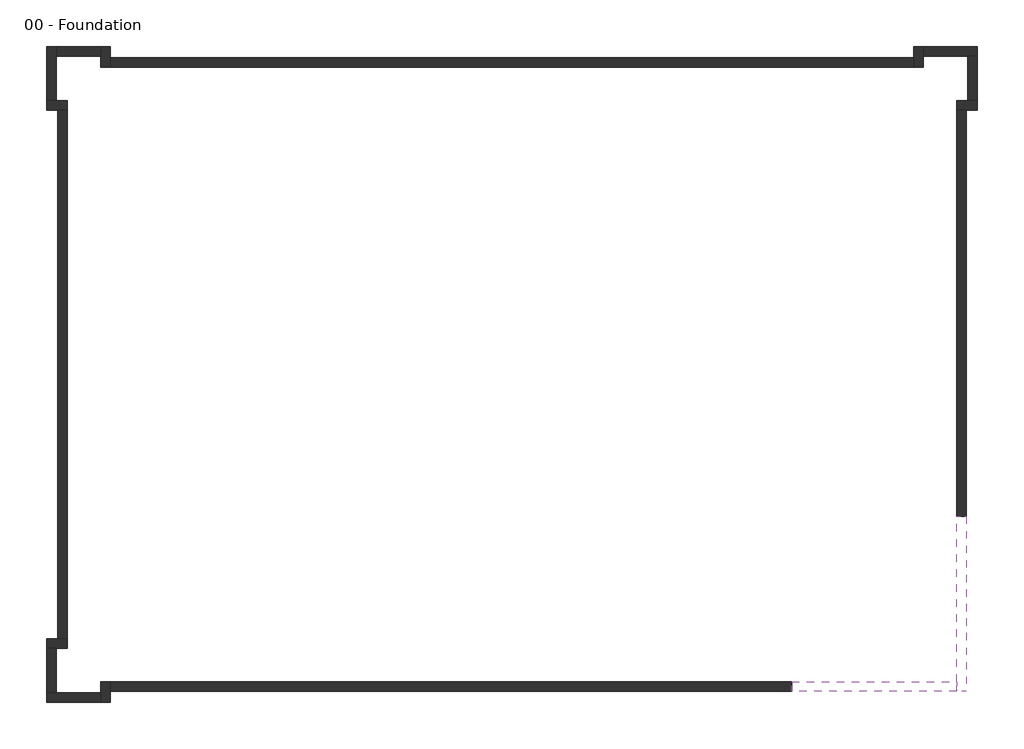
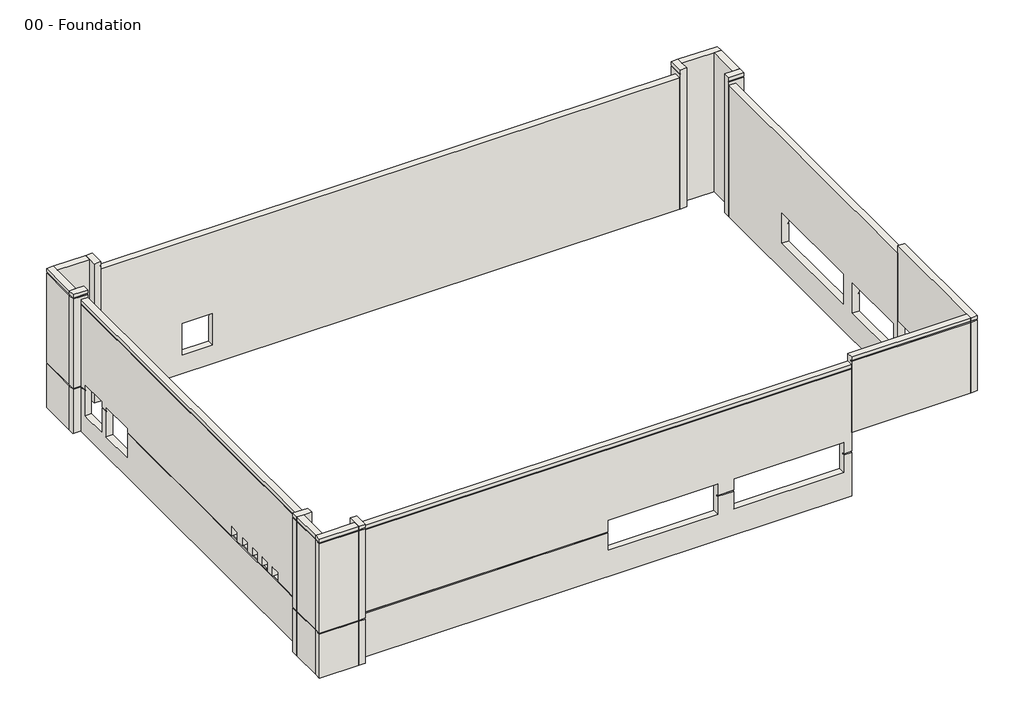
# One storey: 18 walls.
"""IFC4 building model written with IfcOpenShell, lengths in millimetres."""

import ifcopenshell
import ifcopenshell.guid

model = None  # the IFC model being written
_history = None  # IfcOwnerHistory: only IFC2X3 demands one
_inside = {}  # id of a spatial element -> (the spatial element, [elements in it])
_under = {}  # id of a project, library or spatial element -> (it, [spatial elements below it])
_declared = {}  # id of a project -> (the project, [libraries it declares])
_typed = {}  # id of a type object -> (the type object, [elements of that type])
_made_of = {}  # id of a material, layer set ... -> (it, [elements and type objects made of it])


def new_model(schema):
    """Start an empty IFC model of exactly this schema.

    Asked for "IFC4X3", IfcOpenShell would pick the latest addendum, in which some entities
    have other attributes; the version numbers below select the first issue.
    IFC2X3 requires an IfcOwnerHistory on every rooted entity: one is made here for all.
    """
    global model, _history
    if schema == "IFC4X3":
        model = ifcopenshell.file(schema_version=(4, 3, 0, 0))
    else:
        model = ifcopenshell.file(schema=schema)
    _inside.clear()
    _under.clear()
    _declared.clear()
    _typed.clear()
    _made_of.clear()
    _history = None
    if model.schema == "IFC2X3":
        org = make("IfcOrganization", Name="unknown")
        user = make(
            "IfcPersonAndOrganization",
            ThePerson=make("IfcPerson", FamilyName="unknown"),
            TheOrganization=org,
        )
        app = make(
            "IfcApplication",
            ApplicationDeveloper=org,
            Version="unknown",
            ApplicationFullName="unknown",
            ApplicationIdentifier="unknown",
        )
        _history = make(
            "IfcOwnerHistory",
            OwningUser=user,
            OwningApplication=app,
            ChangeAction="ADDED",
            CreationDate=0,
        )
    return model


def make(cls, **values):
    """One entity of the class cls with the attributes given. An attribute that is None is left unset."""
    return model.create_entity(
        cls, **{name: value for name, value in values.items() if value is not None}
    )


def rooted(cls, **values):
    """An entity with a GlobalId (a new one), such as an element, a storey or a relation."""
    return make(cls, GlobalId=ifcopenshell.guid.new(), OwnerHistory=_history, **values)


def si_unit(unit_type, name, prefix=None):
    """IfcSIUnit, for example si_unit("LENGTHUNIT", "METRE", prefix="MILLI")."""
    return make("IfcSIUnit", UnitType=unit_type, Prefix=prefix, Name=name)


def assignment(units):
    """IfcUnitAssignment: the units of a project."""
    return None if units is None else make("IfcUnitAssignment", Units=units)


def point(xyz):
    """IfcCartesianPoint."""
    return None if xyz is None else make("IfcCartesianPoint", Coordinates=xyz)


def direction(xyz):
    """IfcDirection."""
    return None if xyz is None else make("IfcDirection", DirectionRatios=xyz)


def frame(location, z_axis=None, x_axis=None):
    """IfcAxis2Placement3D, a coordinate frame: its origin and axes. An axis left out is left unset."""
    return make(
        "IfcAxis2Placement3D",
        Location=point(location),
        Axis=direction(z_axis),
        RefDirection=direction(x_axis),
    )


def origin():
    """The frame at (0, 0, 0) with its axes left unset."""
    return frame((0.0, 0.0, 0.0))


def place(relative_to, where):
    """IfcLocalPlacement: puts the frame where relative to a parent placement (None: the world)."""
    return make(
        "IfcLocalPlacement", PlacementRelTo=relative_to, RelativePlacement=where
    )


def context(
    kind, dimensions, precision=None, world=None, true_north=None, identifier=None
):
    """IfcGeometricRepresentationContext, for example the 3D "Model" context."""
    return make(
        "IfcGeometricRepresentationContext",
        ContextIdentifier=identifier,
        ContextType=kind,
        CoordinateSpaceDimension=dimensions,
        Precision=precision,
        WorldCoordinateSystem=world,
        TrueNorth=true_north,
    )


def project(units=None, contexts=None):
    """IfcProject with its units and contexts."""
    return rooted(
        "IfcProject",
        Name="project",
        RepresentationContexts=contexts,
        UnitsInContext=assignment(units),
    )


def spatial(cls, under=None, at=None, **own):
    """A site, building, storey or space (cls), placed at a placement, below another one or the project."""
    s = rooted(cls, ObjectPlacement=at, **own)
    if under is not None:
        _under.setdefault(under.id(), (under, []))[1].append(s)
    return s


def polyline(points):
    """IfcPolyline through the points."""
    return make("IfcPolyline", Points=[point(p) for p in points])


def outline(outer, holes=None, kind="AREA"):
    """IfcArbitraryClosedProfileDef: a profile drawn as a closed curve; with holes, ...WithVoids."""
    if holes is None:
        return make("IfcArbitraryClosedProfileDef", ProfileType=kind, OuterCurve=outer)
    return make(
        "IfcArbitraryProfileDefWithVoids",
        ProfileType=kind,
        OuterCurve=outer,
        InnerCurves=holes,
    )


def extrude(swept, where, along, depth):
    """IfcExtrudedAreaSolid: the profile swept, set in the frame where, extruded along a direction by depth."""
    return make(
        "IfcExtrudedAreaSolid",
        SweptArea=swept,
        Position=where,
        ExtrudedDirection=direction(along),
        Depth=depth,
    )


def faces_of(points, faces, orient=None, outer=None):
    """IfcFace entities. A face is a list of loops; a loop is a list of indices into points, from 0.

    orient and outer hold one flag for each loop. By default every Orientation is true, the
    first loop of a face is its IfcFaceOuterBound and the others are IfcFaceBound.
    """
    made = []
    for i, loops in enumerate(faces):
        bounds = []
        for j, loop in enumerate(loops):
            is_outer = j == 0 if outer is None else outer[i][j]
            bounds.append(
                make(
                    "IfcFaceOuterBound" if is_outer else "IfcFaceBound",
                    Bound=make("IfcPolyLoop", Polygon=[points[k] for k in loop]),
                    Orientation=True if orient is None else orient[i][j],
                )
            )
        made.append(make("IfcFace", Bounds=bounds))
    return made


def faceted_brep(points, faces, orient=None, outer=None, voids=None):
    """IfcFacetedBrep: a solid bounded by flat faces; with voids (closed shells), ...WithVoids."""
    shared = [point(p) for p in points]
    hull = make("IfcClosedShell", CfsFaces=faces_of(shared, faces, orient, outer))
    if voids is None:
        return make("IfcFacetedBrep", Outer=hull)
    return make(
        "IfcFacetedBrepWithVoids",
        Outer=hull,
        Voids=[
            make(cls, CfsFaces=faces_of(shared, fs, o, b)) for cls, fs, o, b in voids
        ],
    )


def shape(context_of_items, identifier, shape_type, items):
    """IfcShapeRepresentation: the items that make up one representation, for example the "Body"."""
    return make(
        "IfcShapeRepresentation",
        ContextOfItems=context_of_items,
        RepresentationIdentifier=identifier,
        RepresentationType=shape_type,
        Items=items,
    )


def made_of(thing, what):
    """Note that an element or type object is made of a material, layer set ...; save() writes the relation."""
    if what is not None:
        _made_of.setdefault(what.id(), (what, []))[1].append(thing)
    return thing


def element(
    cls,
    number,
    at=None,
    inside=None,
    cuts=None,
    type_object=None,
    material=None,
    context=None,
    identifier="Body",
    shape_type=None,
    held_by="IfcProductDefinitionShape",
    body=None,
    shapes=None,
    **own,
):
    """One element of the class cls, such as IfcWall. Its Tag is "e" and its number.

    at: its placement. inside: the storey or other place that contains it. cuts: it is an
    opening in that element (IfcRelVoidsElement). A single representation is given by context,
    identifier, shape_type and body (its items); several are given by shapes. held_by: the class
    of the entity that holds the representations. save() writes the other relations.
    """
    e = rooted(cls, Tag="e%d" % number, ObjectPlacement=at, **own)
    if body is not None:
        shapes = [shape(context, identifier, shape_type, body)]
    if shapes is not None:
        e.Representation = make(held_by, Representations=shapes)
    if inside is not None:
        _inside.setdefault(inside.id(), (inside, []))[1].append(e)
    if cuts is not None:
        rooted(
            "IfcRelVoidsElement", RelatingBuildingElement=cuts, RelatedOpeningElement=e
        )
    if type_object is not None:
        _typed.setdefault(type_object.id(), (type_object, []))[1].append(e)
    return made_of(e, material)


def aggregate(whole, parts):
    """IfcRelAggregates: a whole, such as a stair, and the parts it consists of."""
    return rooted("IfcRelAggregates", RelatingObject=whole, RelatedObjects=parts)


def save(model, path):
    """Write the relations noted so far, then the file.

    IfcRelAggregates (storeys below a building ...), IfcRelContainedInSpatialStructure (elements
    in a storey), IfcRelDefinesByType, IfcRelAssociatesMaterial and IfcRelDeclares: one each for
    every whole, place, type object, material and project.
    """
    for whole, parts in _under.values():
        aggregate(whole, parts)
    for where, things in _inside.values():
        rooted(
            "IfcRelContainedInSpatialStructure",
            RelatedElements=things,
            RelatingStructure=where,
        )
    for kind, things in _typed.values():
        rooted("IfcRelDefinesByType", RelatedObjects=things, RelatingType=kind)
    for what, things in _made_of.values():
        rooted("IfcRelAssociatesMaterial", RelatedObjects=things, RelatingMaterial=what)
    for by, libraries in _declared.values():
        rooted("IfcRelDeclares", RelatingContext=by, RelatedDefinitions=libraries)
    model.write(path)


model = new_model("IFC4")

# Units and contexts
model_context = context("Model", 3, world=origin())
ifc_project = project(units=[si_unit("LENGTHUNIT", "METRE", prefix="MILLI")], contexts=[model_context])

# Site, building, storey
site = spatial("IfcSite", under=ifc_project)
building = spatial("IfcBuilding", under=site)
storey = spatial("IfcBuildingStorey", under=building, Name="00 - Foundation", Elevation=-1250.0)

# Walls
placement = place(None, origin())
element("IfcWall", 1, ObjectType="Exterior - Render on Brick on Block @ Entry", at=placement, inside=storey, context=model_context, shape_type="Brep", body=[
    faceted_brep([(18351.5272279, -6481.9313057, 3000.0), (18351.5272279, -13977.9313057, 3000.0), (18351.5272279, -14406.9313057, 3000.0), (18351.5272279, -14406.9313057, 7700.0), (18351.5272279, -14331.9313057, 7700.0), (18351.5272279, -14331.9313057, 7775.0), (18351.5272279, -14406.9313057, 7775.0), (18351.5272279, -14406.9313057, 8000.0), (18351.5272279, -13977.9313057, 8000.0), (18351.5272279, -6481.9313057, 8000.0), (18351.5272279, -6481.9313057, 7500.0), (18780.5272279, -14406.9313057, 3000.0), (18780.5272279, -6481.9313057, 3000.0), (18780.5272279, -6481.9313057, 7200.0), (18780.5272279, -6481.9313057, 7275.0), (18780.5272279, -6481.9313057, 7500.0), (18780.5272279, -6481.9313057, 7700.0), (18780.5272279, -14406.9313057, 7700.0), (18780.5272279, -6481.9313057, 8000.0), (18780.5272279, -14406.9313057, 8000.0), (18780.5272279, -14406.9313057, 7775.0), (18780.5272279, -6481.9313057, 7775.0), (18705.5272279, -6481.9313057, 7775.0), (18705.5272279, -6481.9313057, 7700.0), (18705.5272279, -14331.9313057, 7775.0), (18705.5272279, -14331.9313057, 7700.0)], [[[0, 1, 2, 3, 4, 5, 6, 7, 8, 9, 10]], [[11, 12, 13, 14, 15, 16, 17]], [[18, 19, 20, 21]], [[2, 1, 0, 12, 11]], [[9, 8, 7, 19, 18]], [[0, 10, 9, 18, 21, 22, 23, 16, 15, 14, 13, 12]], [[24, 22, 21, 20, 6, 5]], [[23, 25, 4, 3, 17, 16]], [[22, 24, 25, 23]], [[2, 11, 17, 3]], [[19, 7, 6, 20]], [[25, 24, 5, 4]]]),
])
element("IfcWall", 2, ObjectType="Exterior - Render on Brick on Block @ Entry", at=placement, inside=storey, context=model_context, shape_type="Brep", body=[
    faceted_brep([(18351.5272279, -13977.9313057, 3000.0), (10855.5272279, -13977.9313057, 3000.0), (10855.5272279, -13977.9313057, 7500.0), (10855.5272279, -13977.9313057, 8000.0), (18351.5272279, -13977.9313057, 8000.0), (10855.5272279, -14406.9313057, 3000.0), (18351.5272279, -14406.9313057, 3000.0), (18351.5272279, -14406.9313057, 7700.0), (10855.5272279, -14406.9313057, 7700.0), (10855.5272279, -14406.9313057, 7500.0), (10855.5272279, -14406.9313057, 7275.0), (10855.5272279, -14406.9313057, 7200.0), (18351.5272279, -14406.9313057, 8000.0), (10855.5272279, -14406.9313057, 8000.0), (10855.5272279, -14406.9313057, 7775.0), (18351.5272279, -14406.9313057, 7775.0), (10855.5272279, -14331.9313057, 7700.0), (10855.5272279, -14331.9313057, 7775.0), (18351.5272279, -14331.9313057, 7700.0), (18351.5272279, -14331.9313057, 7775.0)], [[[0, 1, 2, 3, 4]], [[5, 6, 7, 8, 9, 10, 11]], [[12, 13, 14, 15]], [[1, 0, 6, 5]], [[3, 2, 1, 5, 11, 10, 9, 8, 16, 17, 14, 13]], [[4, 3, 13, 12]], [[16, 18, 19, 17]], [[0, 4, 12, 15, 19, 18, 7, 6]], [[17, 19, 15, 14]], [[18, 16, 8, 7]]]),
])
element("IfcWall", 3, ObjectType="Exterior - Render on Brick on Block", at=placement, inside=storey, context=model_context, shape_type="Brep", body=[
    faceted_brep([(10855.5272279, -13977.9313057, -1250.0), (-20031.4727721, -13977.9313057, -1250.0), (-20031.4727721, -13977.9313057, 7500.0), (10855.5272279, -13977.9313057, 7500.0), (10855.5272279, -13977.9313057, 3000.0), (3430.5272279, -13977.9313057, 2500.0), (3430.5272279, -13977.9313057, 500.0), (10355.5272279, -13977.9313057, 500.0), (10355.5272279, -13977.9313057, 2500.0), (2430.5272279, -13977.9313057, 500.0), (2430.5272279, -13977.9313057, 2500.0), (-4494.4727721, -13977.9313057, 2500.0), (-4494.4727721, -13977.9313057, 500.0), (10855.5272279, -14406.9313057, 7500.0), (-20031.4727721, -14406.9313057, 7500.0), (-20031.4727721, -14406.9313057, 7275.0), (10855.5272279, -14406.9313057, 7275.0), (-20031.4727721, -14406.9313057, -1250.0), (10855.5272279, -14406.9313057, -1250.0), (10855.5272279, -14406.9313057, 1675.0), (10355.5272279, -14406.9313057, 1675.0), (10355.5272279, -14406.9313057, 500.0), (3430.5272279, -14406.9313057, 500.0), (3430.5272279, -14406.9313057, 1675.0), (2430.5272279, -14406.9313057, 1675.0), (2430.5272279, -14406.9313057, 500.0), (-4494.4727721, -14406.9313057, 500.0), (-4494.4727721, -14406.9313057, 1675.0), (-20031.4727721, -14406.9313057, 1675.0), (-20031.4727721, -14406.9313057, 1750.0), (-4494.4727721, -14406.9313057, 1750.0), (-4494.4727721, -14406.9313057, 2500.0), (2430.5272279, -14406.9313057, 2500.0), (2430.5272279, -14406.9313057, 1750.0), (3430.5272279, -14406.9313057, 1750.0), (3430.5272279, -14406.9313057, 2500.0), (10355.5272279, -14406.9313057, 2500.0), (10355.5272279, -14406.9313057, 1750.0), (10855.5272279, -14406.9313057, 1750.0), (10855.5272279, -14406.9313057, 7200.0), (-20031.4727721, -14406.9313057, 7200.0), (10855.5272279, -14331.9313057, 7275.0), (10855.5272279, -14331.9313057, 7200.0), (10855.5272279, -14331.9313057, 1750.0), (10855.5272279, -14331.9313057, 1675.0), (10855.5272279, -14381.9313057, -1250.0), (-20031.4727721, -14381.9313057, -1250.0), (-20031.4727721, -14331.9313057, 1750.0), (-4494.4727721, -14331.9313057, 1750.0), (-4494.4727721, -14331.9313057, 1675.0), (-20031.4727721, -14331.9313057, 1675.0), (-20031.4727721, -14331.9313057, 7275.0), (-20031.4727721, -14331.9313057, 7200.0), (3430.5272279, -14331.9313057, 1750.0), (3430.5272279, -14331.9313057, 1675.0), (10355.5272279, -14331.9313057, 1675.0), (10355.5272279, -14331.9313057, 1750.0), (2430.5272279, -14331.9313057, 1750.0), (2430.5272279, -14331.9313057, 1675.0)], [[[0, 1, 2, 3, 4], [5, 6, 7, 8], [9, 10, 11, 12]], [[13, 14, 15, 16]], [[17, 18, 19, 20, 21, 22, 23, 24, 25, 26, 27, 28]], [[29, 30, 31, 32, 33, 34, 35, 36, 37, 38, 39, 40]], [[3, 2, 14, 13]], [[0, 4, 3, 13, 16, 41, 42, 39, 38, 43, 44, 19, 18, 45]], [[1, 0, 45, 46]], [[45, 18, 17, 46]], [[30, 29, 47, 48]], [[28, 27, 49, 50]], [[48, 47, 50, 49]], [[51, 41, 16, 15]], [[42, 52, 40, 39]], [[41, 51, 52, 42]], [[2, 1, 46, 17, 28, 50, 47, 29, 40, 52, 51, 15, 14]], [[22, 6, 5, 35, 34, 53, 54, 23]], [[35, 5, 8, 36]], [[36, 8, 7, 21, 20, 55, 56, 37]], [[6, 22, 21, 7]], [[57, 53, 34, 33]], [[54, 58, 24, 23]], [[53, 57, 58, 54]], [[9, 25, 24, 58, 57, 33, 32, 10]], [[10, 32, 31, 11]], [[11, 31, 30, 48, 49, 27, 26, 12]], [[25, 9, 12, 26]], [[56, 43, 38, 37]], [[44, 55, 20, 19]], [[43, 56, 55, 44]]]),
])
element("IfcWall", 4, ObjectType="Exterior - Render on Brick on Block", at=placement, inside=storey, context=model_context, shape_type="Brep", body=[
    faceted_brep([(-20460.4727721, -13977.9313057, -1250.0), (-20460.4727721, -14477.7313057, -1250.0), (-20460.4727721, -14906.7313057, -1250.0), (-20460.4727721, -14906.7313057, 1675.0), (-20460.4727721, -14831.7313057, 1675.0), (-20460.4727721, -14831.7313057, 1750.0), (-20460.4727721, -14906.7313057, 1750.0), (-20460.4727721, -14906.7313057, 7700.0), (-20460.4727721, -14831.7313057, 7700.0), (-20460.4727721, -14831.7313057, 7775.0), (-20460.4727721, -14906.7313057, 7775.0), (-20460.4727721, -14906.7313057, 8000.0), (-20460.4727721, -14477.7313057, 8000.0), (-20460.4727721, -13977.9313057, 8000.0), (-20031.4727721, -13977.9313057, 8000.0), (-20031.4727721, -14906.7313057, 8000.0), (-20031.4727721, -14906.7313057, 7775.0), (-20031.4727721, -13977.9313057, 7775.0), (-20031.4727721, -14906.7313057, -1250.0), (-20031.4727721, -14406.9313057, -1250.0), (-20031.4727721, -13977.9313057, -1250.0), (-20031.4727721, -13977.9313057, 7500.0), (-20031.4727721, -13977.9313057, 7700.0), (-20031.4727721, -14906.7313057, 7700.0), (-20031.4727721, -14906.7313057, 1750.0), (-20031.4727721, -14406.9313057, 1750.0), (-20031.4727721, -14331.9313057, 1750.0), (-20031.4727721, -14331.9313057, 1675.0), (-20031.4727721, -14406.9313057, 1675.0), (-20031.4727721, -14906.7313057, 1675.0), (-20056.4727721, -13977.9313057, -1250.0), (-20056.4727721, -14906.7313057, -1250.0), (-20106.4727721, -14331.9313057, 1675.0), (-20106.4727721, -14331.9313057, 1750.0), (-20106.4727721, -14831.7313057, 1750.0), (-20106.4727721, -14831.7313057, 1675.0), (-20106.4727721, -14831.7313057, 7775.0), (-20106.4727721, -13977.9313057, 7775.0), (-20106.4727721, -13977.9313057, 7700.0), (-20106.4727721, -14831.7313057, 7700.0)], [[[0, 1, 2, 3, 4, 5, 6, 7, 8, 9, 10, 11, 12, 13]], [[14, 15, 16, 17]], [[18, 19, 20, 21, 22, 23, 24, 25, 26, 27, 28, 29]], [[13, 12, 11, 15, 14]], [[2, 1, 0, 30, 31]], [[32, 33, 34, 35]], [[36, 37, 17, 16, 10, 9]], [[38, 39, 8, 7, 23, 22]], [[37, 36, 39, 38]], [[0, 13, 14, 17, 37, 38, 22, 21, 20, 30]], [[20, 19, 18, 31, 30]], [[34, 33, 26, 25, 24, 6, 5]], [[32, 35, 4, 3, 29, 28, 27]], [[33, 32, 27, 26]], [[15, 11, 10, 16]], [[2, 31, 18, 29, 3]], [[6, 24, 23, 7]], [[35, 34, 5, 4]], [[39, 36, 9, 8]]]),
])
element("IfcWall", 5, ObjectType="Exterior - Render on Brick on Block", at=placement, inside=storey, context=model_context, shape_type="Brep", body=[
    faceted_brep([(-20460.4727721, -14477.7313057, -1250.0), (-22490.4727721, -14477.7313057, -1250.0), (-22919.4727721, -14477.7313057, -1250.0), (-22919.4727721, -14477.7313057, 1675.0), (-22844.4727721, -14477.7313057, 1675.0), (-22844.4727721, -14477.7313057, 1750.0), (-22919.4727721, -14477.7313057, 1750.0), (-22919.4727721, -14477.7313057, 7700.0), (-22844.4727721, -14477.7313057, 7700.0), (-22844.4727721, -14477.7313057, 7775.0), (-22919.4727721, -14477.7313057, 7775.0), (-22919.4727721, -14477.7313057, 8000.0), (-22490.4727721, -14477.7313057, 8000.0), (-20460.4727721, -14477.7313057, 8000.0), (-20460.4727721, -14906.7313057, 8000.0), (-22919.4727721, -14906.7313057, 8000.0), (-22919.4727721, -14906.7313057, 7775.0), (-20460.4727721, -14906.7313057, 7775.0), (-22919.4727721, -14906.7313057, -1250.0), (-20460.4727721, -14906.7313057, -1250.0), (-20460.4727721, -14906.7313057, 1675.0), (-22919.4727721, -14906.7313057, 1675.0), (-22919.4727721, -14906.7313057, 1750.0), (-20460.4727721, -14906.7313057, 1750.0), (-20460.4727721, -14906.7313057, 7700.0), (-22919.4727721, -14906.7313057, 7700.0), (-20460.4727721, -14881.7313057, -1250.0), (-22919.4727721, -14881.7313057, -1250.0), (-22844.4727721, -14831.7313057, 1675.0), (-20460.4727721, -14831.7313057, 1675.0), (-20460.4727721, -14831.7313057, 1750.0), (-22844.4727721, -14831.7313057, 1750.0), (-22844.4727721, -14831.7313057, 7775.0), (-22844.4727721, -14831.7313057, 7700.0), (-20460.4727721, -14831.7313057, 7700.0), (-20460.4727721, -14831.7313057, 7775.0)], [[[0, 1, 2, 3, 4, 5, 6, 7, 8, 9, 10, 11, 12, 13]], [[14, 15, 16, 17]], [[18, 19, 20, 21]], [[22, 23, 24, 25]], [[13, 12, 11, 15, 14]], [[2, 1, 0, 26, 27]], [[28, 29, 30, 31]], [[32, 33, 34, 35]], [[0, 13, 14, 17, 35, 34, 24, 23, 30, 29, 20, 19, 26]], [[19, 18, 27, 26]], [[31, 30, 23, 22, 6, 5]], [[29, 28, 4, 3, 21, 20]], [[9, 32, 35, 17, 16, 10]], [[34, 33, 8, 7, 25, 24]], [[15, 11, 10, 16]], [[2, 27, 18, 21, 3]], [[6, 22, 25, 7]], [[28, 31, 5, 4]], [[33, 32, 9, 8]]]),
])
element("IfcWall", 6, ObjectType="Exterior - Render on Brick on Block", at=placement, inside=storey, context=model_context, shape_type="SweptSolid", body=[
    extrude(outline(polyline([(-1250.0, -22490.4727721), (8000.0, -22490.4727721), (8000.0, -22919.4727721), (7775.0, -22919.4727721), (7775.0, -22844.4727721), (7700.0, -22844.4727721), (7700.0, -22919.4727721), (1750.0, -22919.4727721), (1750.0, -22844.4727721), (1675.0, -22844.4727721), (1675.0, -22919.4727721), (-1250.0, -22919.4727721), (-1250.0, -22894.4727721), (-1250.0, -22490.4727721)])), frame((0.0, -14477.7313057, 0.0), z_axis=(0.0, 1.0, 0.0), x_axis=(0.0, 0.0, 1.0)), (0.0, 0.0, 1.0), 2030.0),
])
element("IfcWall", 7, ObjectType="Exterior - Render on Brick on Block", at=placement, inside=storey, context=model_context, shape_type="Brep", body=[
    faceted_brep([(-22919.4727721, -12447.7313057, -1250.0), (-22490.4727721, -12447.7313057, -1250.0), (-21990.4727721, -12447.7313057, -1250.0), (-21990.4727721, -12447.7313057, 8000.0), (-22490.4727721, -12447.7313057, 8000.0), (-22919.4727721, -12447.7313057, 8000.0), (-22919.4727721, -12447.7313057, 7775.0), (-22844.4727721, -12447.7313057, 7775.0), (-22844.4727721, -12447.7313057, 7700.0), (-22919.4727721, -12447.7313057, 7700.0), (-22919.4727721, -12447.7313057, 1750.0), (-22844.4727721, -12447.7313057, 1750.0), (-22844.4727721, -12447.7313057, 1675.0), (-22919.4727721, -12447.7313057, 1675.0), (-22919.4727721, -12018.7313057, 8000.0), (-21990.4727721, -12018.7313057, 8000.0), (-21990.4727721, -12018.7313057, 7775.0), (-22919.4727721, -12018.7313057, 7775.0), (-21990.4727721, -12018.7313057, -1250.0), (-22419.4727721, -12018.7313057, -1250.0), (-22919.4727721, -12018.7313057, -1250.0), (-22919.4727721, -12018.7313057, 1675.0), (-22419.4727721, -12018.7313057, 1675.0), (-22344.4727721, -12018.7313057, 1675.0), (-22344.4727721, -12018.7313057, 1750.0), (-22419.4727721, -12018.7313057, 1750.0), (-22919.4727721, -12018.7313057, 1750.0), (-22919.4727721, -12018.7313057, 7700.0), (-21990.4727721, -12018.7313057, 7700.0), (-21990.4727721, -12018.7313057, 7500.0), (-22919.4727721, -12043.7313057, -1250.0), (-21990.4727721, -12043.7313057, -1250.0), (-22844.4727721, -12093.7313057, 1675.0), (-22844.4727721, -12093.7313057, 1750.0), (-22344.4727721, -12093.7313057, 1750.0), (-22344.4727721, -12093.7313057, 1675.0), (-22844.4727721, -12093.7313057, 7775.0), (-21990.4727721, -12093.7313057, 7775.0), (-21990.4727721, -12093.7313057, 7700.0), (-22844.4727721, -12093.7313057, 7700.0)], [[[0, 1, 2, 3, 4, 5, 6, 7, 8, 9, 10, 11, 12, 13]], [[14, 15, 16, 17]], [[18, 19, 20, 21, 22, 23, 24, 25, 26, 27, 28, 29]], [[5, 4, 3, 15, 14]], [[2, 1, 0, 30, 31]], [[32, 33, 34, 35]], [[36, 37, 38, 39]], [[5, 14, 17, 6]], [[30, 0, 13, 21, 20]], [[26, 10, 9, 27]], [[20, 19, 18, 31, 30]], [[34, 33, 11, 10, 26, 25, 24]], [[32, 35, 23, 22, 21, 13, 12]], [[33, 32, 12, 11]], [[37, 36, 7, 6, 17, 16]], [[39, 38, 28, 27, 9, 8]], [[36, 39, 8, 7]], [[3, 2, 31, 18, 29, 28, 38, 37, 16, 15]], [[35, 34, 24, 23]]]),
])
element("IfcWall", 8, ObjectType="Exterior - Render on Brick on Block", at=placement, inside=storey, context=model_context, shape_type="Brep", body=[
    faceted_brep([(-21990.4727721, -12018.7313057, -1250.0), (-21990.4727721, 11955.0686943, -1250.0), (-21990.4727721, 11955.0686943, 7500.0), (-21990.4727721, -12018.7313057, 7500.0), (-21990.4727721, 9255.0686943, 2000.0), (-21990.4727721, 9255.0686943, 0.0), (-21990.4727721, 6855.0686943, 0.0), (-21990.4727721, 6855.0686943, 2000.0), (-21990.4727721, 9655.0686943, 2100.0), (-21990.4727721, 11555.0686943, 2100.0), (-21990.4727721, 11555.0686943, 0.0), (-21990.4727721, 9655.0686943, 0.0), (-21990.4727721, -9526.1813057, 1750.0), (-21990.4727721, -9526.1813057, 2360.0), (-21990.4727721, -8916.1813057, 2360.0), (-21990.4727721, -8916.1813057, 1750.0), (-21990.4727721, -8421.1813057, 1750.0), (-21990.4727721, -8421.1813057, 2360.0), (-21990.4727721, -7811.1813057, 2360.0), (-21990.4727721, -7811.1813057, 1750.0), (-21990.4727721, -7316.1813057, 1750.0), (-21990.4727721, -7316.1813057, 2360.0), (-21990.4727721, -6706.1813057, 2360.0), (-21990.4727721, -6706.1813057, 1750.0), (-21990.4727721, -6211.1813057, 1750.0), (-21990.4727721, -6211.1813057, 2360.0), (-21990.4727721, -5601.1813057, 2360.0), (-21990.4727721, -5601.1813057, 1750.0), (-21990.4727721, -5106.1813057, 1750.0), (-21990.4727721, -5106.1813057, 2360.0), (-21990.4727721, -4496.1813057, 2360.0), (-21990.4727721, -4496.1813057, 1750.0), (-22419.4727721, -12018.7313057, 7500.0), (-22419.4727721, 11955.0686943, 7500.0), (-22419.4727721, 11955.0686943, 7275.0), (-22419.4727721, -12018.7313057, 7275.0), (-22419.4727721, 11955.0686943, -1250.0), (-22419.4727721, -12018.7313057, -1250.0), (-22419.4727721, -12018.7313057, 1675.0), (-22419.4727721, 6855.0686943, 1675.0), (-22419.4727721, 6855.0686943, 0.0), (-22419.4727721, 9255.0686943, 0.0), (-22419.4727721, 9255.0686943, 1675.0), (-22419.4727721, 9655.0686943, 1675.0), (-22419.4727721, 9655.0686943, 0.0), (-22419.4727721, 11555.0686943, 0.0), (-22419.4727721, 11555.0686943, 1675.0), (-22419.4727721, 11955.0686943, 1675.0), (-22419.4727721, 11955.0686943, 1750.0), (-22419.4727721, 11555.0686943, 1750.0), (-22419.4727721, 11555.0686943, 2100.0), (-22419.4727721, 9655.0686943, 2100.0), (-22419.4727721, 9655.0686943, 1750.0), (-22419.4727721, 9255.0686943, 1750.0), (-22419.4727721, 9255.0686943, 2000.0), (-22419.4727721, 6855.0686943, 2000.0), (-22419.4727721, 6855.0686943, 1750.0), (-22419.4727721, -4496.1813057, 1750.0), (-22419.4727721, -4496.1813057, 2360.0), (-22419.4727721, -5106.1813057, 2360.0), (-22419.4727721, -5106.1813057, 1750.0), (-22419.4727721, -5601.1813057, 1750.0), (-22419.4727721, -5601.1813057, 2360.0), (-22419.4727721, -6211.1813057, 2360.0), (-22419.4727721, -6211.1813057, 1750.0), (-22419.4727721, -6706.1813057, 1750.0), (-22419.4727721, -6706.1813057, 2360.0), (-22419.4727721, -7316.1813057, 2360.0), (-22419.4727721, -7316.1813057, 1750.0), (-22419.4727721, -7811.1813057, 1750.0), (-22419.4727721, -7811.1813057, 2360.0), (-22419.4727721, -8421.1813057, 2360.0), (-22419.4727721, -8421.1813057, 1750.0), (-22419.4727721, -8916.1813057, 1750.0), (-22419.4727721, -8916.1813057, 2360.0), (-22419.4727721, -9526.1813057, 2360.0), (-22419.4727721, -9526.1813057, 1750.0), (-22419.4727721, -12018.7313057, 1750.0), (-22419.4727721, -12018.7313057, 7200.0), (-22419.4727721, 11955.0686943, 7200.0), (-22394.4727721, -12018.7313057, -1250.0), (-22394.4727721, 11955.0686943, -1250.0), (-22344.4727721, 11955.0686943, 1750.0), (-22344.4727721, 11555.0686943, 1750.0), (-22344.4727721, 11555.0686943, 1675.0), (-22344.4727721, 11955.0686943, 1675.0), (-22344.4727721, 11955.0686943, 7275.0), (-22344.4727721, -12018.7313057, 7275.0), (-22344.4727721, -12018.7313057, 7200.0), (-22344.4727721, 11955.0686943, 7200.0), (-22344.4727721, -12018.7313057, 1750.0), (-22344.4727721, -12018.7313057, 1675.0), (-22344.4727721, -9526.1813057, 1750.0), (-22344.4727721, 6855.0686943, 1750.0), (-22344.4727721, -4496.1813057, 1750.0), (-22344.4727721, -8916.1813057, 1750.0), (-22344.4727721, -8421.1813057, 1750.0), (-22344.4727721, -7811.1813057, 1750.0), (-22344.4727721, -7316.1813057, 1750.0), (-22344.4727721, -6706.1813057, 1750.0), (-22344.4727721, -6211.1813057, 1750.0), (-22344.4727721, -5601.1813057, 1750.0), (-22344.4727721, -5106.1813057, 1750.0), (-22344.4727721, 6855.0686943, 1675.0), (-22344.4727721, 9255.0686943, 1750.0), (-22344.4727721, 9255.0686943, 1675.0), (-22344.4727721, 9655.0686943, 1750.0), (-22344.4727721, 9655.0686943, 1675.0)], [[[0, 1, 2, 3], [4, 5, 6, 7], [8, 9, 10, 11], [12, 13, 14, 15], [16, 17, 18, 19], [20, 21, 22, 23], [24, 25, 26, 27], [28, 29, 30, 31]], [[32, 33, 34, 35]], [[36, 37, 38, 39, 40, 41, 42, 43, 44, 45, 46, 47]], [[48, 49, 50, 51, 52, 53, 54, 55, 56, 57, 58, 59, 60, 61, 62, 63, 64, 65, 66, 67, 68, 69, 70, 71, 72, 73, 74, 75, 76, 77, 78, 79]], [[3, 2, 33, 32]], [[1, 0, 80, 81]], [[49, 48, 82, 83]], [[47, 46, 84, 85]], [[85, 84, 83, 82]], [[86, 87, 35, 34]], [[88, 89, 79, 78]], [[87, 86, 89, 88]], [[0, 3, 32, 35, 87, 88, 78, 77, 90, 91, 38, 37, 80]], [[37, 36, 81, 80]], [[77, 76, 92, 90]], [[56, 93, 94, 57]], [[95, 73, 72, 96]], [[97, 69, 68, 98]], [[99, 65, 64, 100]], [[101, 61, 60, 102]], [[39, 38, 91, 103]], [[2, 1, 81, 36, 47, 85, 82, 48, 79, 89, 86, 34, 33]], [[5, 4, 54, 53, 104, 105, 42, 41]], [[55, 54, 4, 7]], [[7, 6, 40, 39, 103, 93, 56, 55]], [[41, 40, 6, 5]], [[104, 106, 107, 105]], [[106, 104, 53, 52]], [[105, 107, 43, 42]], [[8, 51, 50, 9]], [[51, 8, 11, 44, 43, 107, 106, 52]], [[44, 11, 10, 45]], [[9, 50, 49, 83, 84, 46, 45, 10]], [[103, 91, 90, 92, 95, 96, 97, 98, 99, 100, 101, 102, 94, 93]], [[13, 12, 92, 76, 75]], [[14, 13, 75, 74]], [[15, 14, 74, 73, 95]], [[12, 15, 95, 92]], [[17, 16, 96, 72, 71]], [[18, 17, 71, 70]], [[19, 18, 70, 69, 97]], [[16, 19, 97, 96]], [[21, 20, 98, 68, 67]], [[22, 21, 67, 66]], [[23, 22, 66, 65, 99]], [[20, 23, 99, 98]], [[25, 24, 100, 64, 63]], [[26, 25, 63, 62]], [[27, 26, 62, 61, 101]], [[24, 27, 101, 100]], [[29, 28, 102, 60, 59]], [[30, 29, 59, 58]], [[31, 30, 58, 57, 94]], [[28, 31, 94, 102]]]),
])
element("IfcWall", 9, ObjectType="Exterior - Render on Brick on Block", at=placement, inside=storey, context=model_context, shape_type="Brep", body=[
    faceted_brep([(-21990.4727721, 12384.0686943, -1250.0), (-22490.4727721, 12384.0686943, -1250.0), (-22919.4727721, 12384.0686943, -1250.0), (-22919.4727721, 12384.0686943, 1675.0), (-22844.4727721, 12384.0686943, 1675.0), (-22844.4727721, 12384.0686943, 1750.0), (-22919.4727721, 12384.0686943, 1750.0), (-22919.4727721, 12384.0686943, 7700.0), (-22844.4727721, 12384.0686943, 7700.0), (-22844.4727721, 12384.0686943, 7775.0), (-22919.4727721, 12384.0686943, 7775.0), (-22919.4727721, 12384.0686943, 8000.0), (-22490.4727721, 12384.0686943, 8000.0), (-21990.4727721, 12384.0686943, 8000.0), (-21990.4727721, 11955.0686943, 8000.0), (-22919.4727721, 11955.0686943, 8000.0), (-22919.4727721, 11955.0686943, 7775.0), (-21990.4727721, 11955.0686943, 7775.0), (-22919.4727721, 11955.0686943, -1250.0), (-22419.4727721, 11955.0686943, -1250.0), (-21990.4727721, 11955.0686943, -1250.0), (-21990.4727721, 11955.0686943, 7500.0), (-21990.4727721, 11955.0686943, 7700.0), (-22919.4727721, 11955.0686943, 7700.0), (-22919.4727721, 11955.0686943, 1750.0), (-22419.4727721, 11955.0686943, 1750.0), (-22344.4727721, 11955.0686943, 1750.0), (-22344.4727721, 11955.0686943, 1675.0), (-22419.4727721, 11955.0686943, 1675.0), (-22919.4727721, 11955.0686943, 1675.0), (-21990.4727721, 11980.0686943, -1250.0), (-22919.4727721, 11980.0686943, -1250.0), (-22344.4727721, 12030.0686943, 1675.0), (-22344.4727721, 12030.0686943, 1750.0), (-22844.4727721, 12030.0686943, 1750.0), (-22844.4727721, 12030.0686943, 1675.0), (-22844.4727721, 12030.0686943, 7775.0), (-21990.4727721, 12030.0686943, 7775.0), (-21990.4727721, 12030.0686943, 7700.0), (-22844.4727721, 12030.0686943, 7700.0)], [[[0, 1, 2, 3, 4, 5, 6, 7, 8, 9, 10, 11, 12, 13]], [[14, 15, 16, 17]], [[18, 19, 20, 21, 22, 23, 24, 25, 26, 27, 28, 29]], [[13, 12, 11, 15, 14]], [[2, 1, 0, 30, 31]], [[32, 33, 34, 35]], [[36, 37, 17, 16, 10, 9]], [[38, 39, 8, 7, 23, 22]], [[37, 36, 39, 38]], [[0, 13, 14, 17, 37, 38, 22, 21, 20, 30]], [[20, 19, 18, 31, 30]], [[34, 33, 26, 25, 24, 6, 5]], [[32, 35, 4, 3, 29, 28, 27]], [[33, 32, 27, 26]], [[15, 11, 10, 16]], [[2, 31, 18, 29, 3]], [[6, 24, 23, 7]], [[35, 34, 5, 4]], [[39, 36, 9, 8]]]),
])
element("IfcWall", 10, ObjectType="Exterior - Render on Brick on Block", at=placement, inside=storey, context=model_context, shape_type="Brep", body=[
    faceted_brep([(-22490.4727721, 12384.0686943, -1250.0), (-22490.4727721, 14414.0686943, -1250.0), (-22490.4727721, 14843.0686943, -1250.0), (-22490.4727721, 14843.0686943, 1675.0), (-22490.4727721, 14768.0686943, 1675.0), (-22490.4727721, 14768.0686943, 1750.0), (-22490.4727721, 14843.0686943, 1750.0), (-22490.4727721, 14843.0686943, 7700.0), (-22490.4727721, 14768.0686943, 7700.0), (-22490.4727721, 14768.0686943, 7775.0), (-22490.4727721, 14843.0686943, 7775.0), (-22490.4727721, 14843.0686943, 8000.0), (-22490.4727721, 14414.0686943, 8000.0), (-22490.4727721, 12384.0686943, 8000.0), (-22919.4727721, 12384.0686943, 8000.0), (-22919.4727721, 14843.0686943, 8000.0), (-22919.4727721, 14843.0686943, 7775.0), (-22919.4727721, 12384.0686943, 7775.0), (-22919.4727721, 14843.0686943, -1250.0), (-22919.4727721, 12384.0686943, -1250.0), (-22919.4727721, 12384.0686943, 1675.0), (-22919.4727721, 14843.0686943, 1675.0), (-22919.4727721, 14843.0686943, 1750.0), (-22919.4727721, 12384.0686943, 1750.0), (-22919.4727721, 12384.0686943, 7700.0), (-22919.4727721, 14843.0686943, 7700.0), (-22894.4727721, 12384.0686943, -1250.0), (-22894.4727721, 14843.0686943, -1250.0), (-22844.4727721, 14768.0686943, 1675.0), (-22844.4727721, 12384.0686943, 1675.0), (-22844.4727721, 12384.0686943, 1750.0), (-22844.4727721, 14768.0686943, 1750.0), (-22844.4727721, 14768.0686943, 7775.0), (-22844.4727721, 14768.0686943, 7700.0), (-22844.4727721, 12384.0686943, 7700.0), (-22844.4727721, 12384.0686943, 7775.0)], [[[0, 1, 2, 3, 4, 5, 6, 7, 8, 9, 10, 11, 12, 13]], [[14, 15, 16, 17]], [[18, 19, 20, 21]], [[22, 23, 24, 25]], [[13, 12, 11, 15, 14]], [[2, 1, 0, 26, 27]], [[28, 29, 30, 31]], [[32, 33, 34, 35]], [[0, 13, 14, 17, 35, 34, 24, 23, 30, 29, 20, 19, 26]], [[19, 18, 27, 26]], [[31, 30, 23, 22, 6, 5]], [[29, 28, 4, 3, 21, 20]], [[9, 32, 35, 17, 16, 10]], [[34, 33, 8, 7, 25, 24]], [[15, 11, 10, 16]], [[2, 27, 18, 21, 3]], [[6, 22, 25, 7]], [[28, 31, 5, 4]], [[33, 32, 9, 8]]]),
])
element("IfcWall", 11, ObjectType="Exterior - Render on Brick on Block", at=placement, inside=storey, context=model_context, shape_type="SweptSolid", body=[
    extrude(outline(polyline([(14414.0686943, -1250.0), (14414.0686943, 8000.0), (14843.0686943, 8000.0), (14843.0686943, 7775.0), (14768.0686943, 7775.0), (14768.0686943, 7700.0), (14843.0686943, 7700.0), (14843.0686943, 1750.0), (14768.0686943, 1750.0), (14768.0686943, 1675.0), (14843.0686943, 1675.0), (14843.0686943, -1250.0), (14818.0686943, -1250.0), (14414.0686943, -1250.0)])), frame((-22490.4727721, 0.0, 0.0), z_axis=(1.0, 0.0, 0.0), x_axis=(0.0, 1.0, 0.0)), (0.0, 0.0, 1.0), 2030.0),
])
element("IfcWall", 12, ObjectType="Exterior - Render on Brick on Block", at=placement, inside=storey, context=model_context, shape_type="Brep", body=[
    faceted_brep([(-20460.4727721, 14843.0686943, -1250.0), (-20460.4727721, 14414.0686943, -1250.0), (-20460.4727721, 13914.0686943, -1250.0), (-20460.4727721, 13914.0686943, 8000.0), (-20460.4727721, 14414.0686943, 8000.0), (-20460.4727721, 14843.0686943, 8000.0), (-20460.4727721, 14843.0686943, 7775.0), (-20460.4727721, 14768.0686943, 7775.0), (-20460.4727721, 14768.0686943, 7700.0), (-20460.4727721, 14843.0686943, 7700.0), (-20460.4727721, 14843.0686943, 1750.0), (-20460.4727721, 14768.0686943, 1750.0), (-20460.4727721, 14768.0686943, 1675.0), (-20460.4727721, 14843.0686943, 1675.0), (-20031.4727721, 14843.0686943, 8000.0), (-20031.4727721, 13914.0686943, 8000.0), (-20031.4727721, 13914.0686943, 7775.0), (-20031.4727721, 14843.0686943, 7775.0), (-20031.4727721, 13914.0686943, -1250.0), (-20031.4727721, 14343.0686943, -1250.0), (-20031.4727721, 14843.0686943, -1250.0), (-20031.4727721, 14843.0686943, 1675.0), (-20031.4727721, 14343.0686943, 1675.0), (-20031.4727721, 14268.0686943, 1675.0), (-20031.4727721, 14268.0686943, 1750.0), (-20031.4727721, 14343.0686943, 1750.0), (-20031.4727721, 14843.0686943, 1750.0), (-20031.4727721, 14843.0686943, 7700.0), (-20031.4727721, 13914.0686943, 7700.0), (-20031.4727721, 13914.0686943, 7500.0), (-20056.4727721, 14843.0686943, -1250.0), (-20056.4727721, 13914.0686943, -1250.0), (-20106.4727721, 14768.0686943, 1675.0), (-20106.4727721, 14768.0686943, 1750.0), (-20106.4727721, 14268.0686943, 1750.0), (-20106.4727721, 14268.0686943, 1675.0), (-20106.4727721, 14768.0686943, 7775.0), (-20106.4727721, 13914.0686943, 7775.0), (-20106.4727721, 13914.0686943, 7700.0), (-20106.4727721, 14768.0686943, 7700.0)], [[[0, 1, 2, 3, 4, 5, 6, 7, 8, 9, 10, 11, 12, 13]], [[14, 15, 16, 17]], [[18, 19, 20, 21, 22, 23, 24, 25, 26, 27, 28, 29]], [[5, 4, 3, 15, 14]], [[2, 1, 0, 30, 31]], [[32, 33, 34, 35]], [[36, 37, 38, 39]], [[5, 14, 17, 6]], [[30, 0, 13, 21, 20]], [[26, 10, 9, 27]], [[20, 19, 18, 31, 30]], [[34, 33, 11, 10, 26, 25, 24]], [[32, 35, 23, 22, 21, 13, 12]], [[33, 32, 12, 11]], [[37, 36, 7, 6, 17, 16]], [[39, 38, 28, 27, 9, 8]], [[36, 39, 8, 7]], [[3, 2, 31, 18, 29, 28, 38, 37, 16, 15]], [[35, 34, 24, 23]]]),
])
element("IfcWall", 13, ObjectType="Exterior - Render on Brick on Block", at=placement, inside=storey, context=model_context, shape_type="Brep", body=[
    faceted_brep([(-20031.4727721, 13914.0686943, -1250.0), (16392.5272279, 13914.0686943, -1250.0), (16392.5272279, 13914.0686943, 7500.0), (-20031.4727721, 13914.0686943, 7500.0), (-14912.4227721, 13914.0686943, 0.0), (-14912.4227721, 13914.0686943, 2100.0), (-13012.4227721, 13914.0686943, 2100.0), (-13012.4227721, 13914.0686943, 0.0), (-20031.4727721, 14343.0686943, 7500.0), (16392.5272279, 14343.0686943, 7500.0), (16392.5272279, 14343.0686943, 7275.0), (-20031.4727721, 14343.0686943, 7275.0), (16392.5272279, 14343.0686943, -1250.0), (-20031.4727721, 14343.0686943, -1250.0), (-20031.4727721, 14343.0686943, 1675.0), (-14912.4227721, 14343.0686943, 1675.0), (-14912.4227721, 14343.0686943, 0.0), (-13012.4227721, 14343.0686943, 0.0), (-13012.4227721, 14343.0686943, 1675.0), (16392.5272279, 14343.0686943, 1675.0), (16392.5272279, 14343.0686943, 1750.0), (-13012.4227721, 14343.0686943, 1750.0), (-13012.4227721, 14343.0686943, 2100.0), (-14912.4227721, 14343.0686943, 2100.0), (-14912.4227721, 14343.0686943, 1750.0), (-20031.4727721, 14343.0686943, 1750.0), (-20031.4727721, 14343.0686943, 7200.0), (16392.5272279, 14343.0686943, 7200.0), (-20031.4727721, 14318.0686943, -1250.0), (16392.5272279, 14318.0686943, -1250.0), (16392.5272279, 14268.0686943, 1750.0), (-13012.4227721, 14268.0686943, 1750.0), (-13012.4227721, 14268.0686943, 1675.0), (16392.5272279, 14268.0686943, 1675.0), (16392.5272279, 14268.0686943, 7275.0), (-20031.4727721, 14268.0686943, 7275.0), (-20031.4727721, 14268.0686943, 7200.0), (16392.5272279, 14268.0686943, 7200.0), (-20031.4727721, 14268.0686943, 1750.0), (-20031.4727721, 14268.0686943, 1675.0), (-14912.4227721, 14268.0686943, 1750.0), (-14912.4227721, 14268.0686943, 1675.0)], [[[0, 1, 2, 3], [4, 5, 6, 7]], [[8, 9, 10, 11]], [[12, 13, 14, 15, 16, 17, 18, 19]], [[20, 21, 22, 23, 24, 25, 26, 27]], [[3, 2, 9, 8]], [[1, 0, 28, 29]], [[21, 20, 30, 31]], [[19, 18, 32, 33]], [[33, 32, 31, 30]], [[34, 35, 11, 10]], [[36, 37, 27, 26]], [[35, 34, 37, 36]], [[0, 3, 8, 11, 35, 36, 26, 25, 38, 39, 14, 13, 28]], [[13, 12, 29, 28]], [[25, 24, 40, 38]], [[15, 14, 39, 41]], [[2, 1, 29, 12, 19, 33, 30, 20, 27, 37, 34, 10, 9]], [[5, 4, 16, 15, 41, 40, 24, 23]], [[6, 5, 23, 22]], [[7, 6, 22, 21, 31, 32, 18, 17]], [[4, 7, 17, 16]], [[38, 40, 41, 39]]]),
])
element("IfcWall", 14, ObjectType="Exterior - Render on Brick on Block", at=placement, inside=storey, context=model_context, shape_type="Brep", body=[
    faceted_brep([(16821.5272279, 13914.0686943, -1250.0), (16821.5272279, 14414.0686943, -1250.0), (16821.5272279, 14843.0686943, -1250.0), (16821.5272279, 14843.0686943, 1675.0), (16821.5272279, 14768.0686943, 1675.0), (16821.5272279, 14768.0686943, 1750.0), (16821.5272279, 14843.0686943, 1750.0), (16821.5272279, 14843.0686943, 7700.0), (16821.5272279, 14768.0686943, 7700.0), (16821.5272279, 14768.0686943, 7775.0), (16821.5272279, 14843.0686943, 7775.0), (16821.5272279, 14843.0686943, 8000.0), (16821.5272279, 14414.0686943, 8000.0), (16821.5272279, 13914.0686943, 8000.0), (16392.5272279, 13914.0686943, 8000.0), (16392.5272279, 14843.0686943, 8000.0), (16392.5272279, 14843.0686943, 7775.0), (16392.5272279, 13914.0686943, 7775.0), (16392.5272279, 14843.0686943, -1250.0), (16392.5272279, 14343.0686943, -1250.0), (16392.5272279, 13914.0686943, -1250.0), (16392.5272279, 13914.0686943, 7500.0), (16392.5272279, 13914.0686943, 7700.0), (16392.5272279, 14843.0686943, 7700.0), (16392.5272279, 14843.0686943, 1750.0), (16392.5272279, 14343.0686943, 1750.0), (16392.5272279, 14268.0686943, 1750.0), (16392.5272279, 14268.0686943, 1675.0), (16392.5272279, 14343.0686943, 1675.0), (16392.5272279, 14843.0686943, 1675.0), (16417.5272279, 13914.0686943, -1250.0), (16417.5272279, 14843.0686943, -1250.0), (16467.5272279, 14268.0686943, 1675.0), (16467.5272279, 14268.0686943, 1750.0), (16467.5272279, 14768.0686943, 1750.0), (16467.5272279, 14768.0686943, 1675.0), (16467.5272279, 14768.0686943, 7775.0), (16467.5272279, 13914.0686943, 7775.0), (16467.5272279, 13914.0686943, 7700.0), (16467.5272279, 14768.0686943, 7700.0)], [[[0, 1, 2, 3, 4, 5, 6, 7, 8, 9, 10, 11, 12, 13]], [[14, 15, 16, 17]], [[18, 19, 20, 21, 22, 23, 24, 25, 26, 27, 28, 29]], [[13, 12, 11, 15, 14]], [[2, 1, 0, 30, 31]], [[32, 33, 34, 35]], [[36, 37, 17, 16, 10, 9]], [[38, 39, 8, 7, 23, 22]], [[37, 36, 39, 38]], [[0, 13, 14, 17, 37, 38, 22, 21, 20, 30]], [[20, 19, 18, 31, 30]], [[34, 33, 26, 25, 24, 6, 5]], [[32, 35, 4, 3, 29, 28, 27]], [[33, 32, 27, 26]], [[15, 11, 10, 16]], [[2, 31, 18, 29, 3]], [[6, 24, 23, 7]], [[35, 34, 5, 4]], [[39, 36, 9, 8]]]),
])
element("IfcWall", 15, ObjectType="Exterior - Render on Brick on Block", at=placement, inside=storey, context=model_context, shape_type="Brep", body=[
    faceted_brep([(16821.5272279, 14414.0686943, -1250.0), (18851.5272279, 14414.0686943, -1250.0), (19280.5272279, 14414.0686943, -1250.0), (19280.5272279, 14414.0686943, 1675.0), (19205.5272279, 14414.0686943, 1675.0), (19205.5272279, 14414.0686943, 1750.0), (19280.5272279, 14414.0686943, 1750.0), (19280.5272279, 14414.0686943, 7700.0), (19205.5272279, 14414.0686943, 7700.0), (19205.5272279, 14414.0686943, 7775.0), (19280.5272279, 14414.0686943, 7775.0), (19280.5272279, 14414.0686943, 8000.0), (18851.5272279, 14414.0686943, 8000.0), (16821.5272279, 14414.0686943, 8000.0), (16821.5272279, 14843.0686943, 8000.0), (19280.5272279, 14843.0686943, 8000.0), (19280.5272279, 14843.0686943, 7775.0), (16821.5272279, 14843.0686943, 7775.0), (19280.5272279, 14843.0686943, -1250.0), (16821.5272279, 14843.0686943, -1250.0), (16821.5272279, 14843.0686943, 1675.0), (19280.5272279, 14843.0686943, 1675.0), (19280.5272279, 14843.0686943, 1750.0), (16821.5272279, 14843.0686943, 1750.0), (16821.5272279, 14843.0686943, 7700.0), (19280.5272279, 14843.0686943, 7700.0), (16821.5272279, 14818.0686943, -1250.0), (19280.5272279, 14818.0686943, -1250.0), (19205.5272279, 14768.0686943, 1675.0), (16821.5272279, 14768.0686943, 1675.0), (16821.5272279, 14768.0686943, 1750.0), (19205.5272279, 14768.0686943, 1750.0), (19205.5272279, 14768.0686943, 7775.0), (19205.5272279, 14768.0686943, 7700.0), (16821.5272279, 14768.0686943, 7700.0), (16821.5272279, 14768.0686943, 7775.0)], [[[0, 1, 2, 3, 4, 5, 6, 7, 8, 9, 10, 11, 12, 13]], [[14, 15, 16, 17]], [[18, 19, 20, 21]], [[22, 23, 24, 25]], [[13, 12, 11, 15, 14]], [[2, 1, 0, 26, 27]], [[28, 29, 30, 31]], [[32, 33, 34, 35]], [[0, 13, 14, 17, 35, 34, 24, 23, 30, 29, 20, 19, 26]], [[19, 18, 27, 26]], [[31, 30, 23, 22, 6, 5]], [[29, 28, 4, 3, 21, 20]], [[9, 32, 35, 17, 16, 10]], [[34, 33, 8, 7, 25, 24]], [[15, 11, 10, 16]], [[2, 27, 18, 21, 3]], [[6, 22, 25, 7]], [[28, 31, 5, 4]], [[33, 32, 9, 8]]]),
])
element("IfcWall", 16, ObjectType="Exterior - Render on Brick on Block", at=placement, inside=storey, context=model_context, shape_type="SweptSolid", body=[
    extrude(outline(polyline([(8000.0, 18851.5272279), (-1250.0, 18851.5272279), (-1250.0, 19255.5272279), (-1250.0, 19280.5272279), (1675.0, 19280.5272279), (1675.0, 19205.5272279), (1750.0, 19205.5272279), (1750.0, 19280.5272279), (7700.0, 19280.5272279), (7700.0, 19205.5272279), (7775.0, 19205.5272279), (7775.0, 19280.5272279), (8000.0, 19280.5272279), (8000.0, 18851.5272279)])), frame((0.0, 12384.0686943, 0.0), z_axis=(0.0, 1.0, 0.0), x_axis=(0.0, 0.0, 1.0)), (0.0, 0.0, 1.0), 2030.0),
])
element("IfcWall", 17, ObjectType="Exterior - Render on Brick on Block", at=placement, inside=storey, context=model_context, shape_type="Brep", body=[
    faceted_brep([(19280.5272279, 12384.0686943, -1250.0), (18851.5272279, 12384.0686943, -1250.0), (18351.5272279, 12384.0686943, -1250.0), (18351.5272279, 12384.0686943, 8000.0), (18851.5272279, 12384.0686943, 8000.0), (19280.5272279, 12384.0686943, 8000.0), (19280.5272279, 12384.0686943, 7775.0), (19205.5272279, 12384.0686943, 7775.0), (19205.5272279, 12384.0686943, 7700.0), (19280.5272279, 12384.0686943, 7700.0), (19280.5272279, 12384.0686943, 1750.0), (19205.5272279, 12384.0686943, 1750.0), (19205.5272279, 12384.0686943, 1675.0), (19280.5272279, 12384.0686943, 1675.0), (19280.5272279, 11955.0686943, 8000.0), (18351.5272279, 11955.0686943, 8000.0), (18351.5272279, 11955.0686943, 7775.0), (19280.5272279, 11955.0686943, 7775.0), (18351.5272279, 11955.0686943, -1250.0), (18780.5272279, 11955.0686943, -1250.0), (19280.5272279, 11955.0686943, -1250.0), (19280.5272279, 11955.0686943, 1675.0), (18780.5272279, 11955.0686943, 1675.0), (18705.5272279, 11955.0686943, 1675.0), (18705.5272279, 11955.0686943, 1750.0), (18780.5272279, 11955.0686943, 1750.0), (19280.5272279, 11955.0686943, 1750.0), (19280.5272279, 11955.0686943, 7700.0), (18351.5272279, 11955.0686943, 7700.0), (18351.5272279, 11955.0686943, 7500.0), (19280.5272279, 11980.0686943, -1250.0), (18351.5272279, 11980.0686943, -1250.0), (19205.5272279, 12030.0686943, 1675.0), (19205.5272279, 12030.0686943, 1750.0), (18705.5272279, 12030.0686943, 1750.0), (18705.5272279, 12030.0686943, 1675.0), (19205.5272279, 12030.0686943, 7775.0), (18351.5272279, 12030.0686943, 7775.0), (18351.5272279, 12030.0686943, 7700.0), (19205.5272279, 12030.0686943, 7700.0)], [[[0, 1, 2, 3, 4, 5, 6, 7, 8, 9, 10, 11, 12, 13]], [[14, 15, 16, 17]], [[18, 19, 20, 21, 22, 23, 24, 25, 26, 27, 28, 29]], [[5, 4, 3, 15, 14]], [[2, 1, 0, 30, 31]], [[32, 33, 34, 35]], [[36, 37, 38, 39]], [[5, 14, 17, 6]], [[30, 0, 13, 21, 20]], [[26, 10, 9, 27]], [[20, 19, 18, 31, 30]], [[34, 33, 11, 10, 26, 25, 24]], [[32, 35, 23, 22, 21, 13, 12]], [[33, 32, 12, 11]], [[37, 36, 7, 6, 17, 16]], [[39, 38, 28, 27, 9, 8]], [[36, 39, 8, 7]], [[3, 2, 31, 18, 29, 28, 38, 37, 16, 15]], [[35, 34, 24, 23]]]),
])
element("IfcWall", 18, ObjectType="Exterior - Render on Brick on Block", at=placement, inside=storey, context=model_context, shape_type="Brep", body=[
    faceted_brep([(18351.5272279, 11955.0686943, -1250.0), (18351.5272279, -6481.9313057, -1250.0), (18351.5272279, -6481.9313057, 3000.0), (18351.5272279, -6481.9313057, 7500.0), (18351.5272279, 11955.0686943, 7500.0), (18351.5272279, -5981.9313057, 2500.0), (18351.5272279, -5981.9313057, 500.0), (18351.5272279, -1523.5979723, 500.0), (18351.5272279, -1523.5979723, 2500.0), (18351.5272279, -523.5979723, 2500.0), (18351.5272279, -523.5979723, 500.0), (18351.5272279, 6159.735361, 500.0), (18351.5272279, 6159.735361, 2500.0), (18780.5272279, 11955.0686943, 7500.0), (18780.5272279, -6481.9313057, 7500.0), (18780.5272279, -6481.9313057, 7275.0), (18780.5272279, 11955.0686943, 7275.0), (18780.5272279, -6481.9313057, -1250.0), (18780.5272279, 11955.0686943, -1250.0), (18780.5272279, 11955.0686943, 1675.0), (18780.5272279, 6159.735361, 1675.0), (18780.5272279, 6159.735361, 500.0), (18780.5272279, -523.5979723, 500.0), (18780.5272279, -523.5979723, 1675.0), (18780.5272279, -1523.5979723, 1675.0), (18780.5272279, -1523.5979723, 500.0), (18780.5272279, -5981.9313057, 500.0), (18780.5272279, -5981.9313057, 1675.0), (18780.5272279, -6481.9313057, 1675.0), (18780.5272279, -6481.9313057, 1750.0), (18780.5272279, -5981.9313057, 1750.0), (18780.5272279, -5981.9313057, 2500.0), (18780.5272279, -1523.5979723, 2500.0), (18780.5272279, -1523.5979723, 1750.0), (18780.5272279, -523.5979723, 1750.0), (18780.5272279, -523.5979723, 2500.0), (18780.5272279, 6159.735361, 2500.0), (18780.5272279, 6159.735361, 1750.0), (18780.5272279, 11955.0686943, 1750.0), (18780.5272279, 11955.0686943, 7200.0), (18780.5272279, -6481.9313057, 7200.0), (18755.5272279, -6481.9313057, -1250.0), (18705.5272279, -6481.9313057, 1675.0), (18705.5272279, -6481.9313057, 1750.0), (18705.5272279, -6481.9313057, 7200.0), (18705.5272279, -6481.9313057, 7275.0), (18755.5272279, 11955.0686943, -1250.0), (18705.5272279, -5981.9313057, 1750.0), (18705.5272279, -5981.9313057, 1675.0), (18705.5272279, 11955.0686943, 7275.0), (18705.5272279, 11955.0686943, 7200.0), (18705.5272279, 11955.0686943, 1750.0), (18705.5272279, 11955.0686943, 1675.0), (18705.5272279, 6159.735361, 1750.0), (18705.5272279, 6159.735361, 1675.0), (18705.5272279, -1523.5979723, 1675.0), (18705.5272279, -1523.5979723, 1750.0), (18705.5272279, -523.5979723, 1750.0), (18705.5272279, -523.5979723, 1675.0)], [[[0, 1, 2, 3, 4], [5, 6, 7, 8], [9, 10, 11, 12]], [[13, 14, 15, 16]], [[17, 18, 19, 20, 21, 22, 23, 24, 25, 26, 27, 28]], [[29, 30, 31, 32, 33, 34, 35, 36, 37, 38, 39, 40]], [[3, 2, 1, 41, 17, 28, 42, 43, 29, 40, 44, 45, 15, 14]], [[4, 3, 14, 13]], [[1, 0, 46, 41]], [[43, 47, 30, 29]], [[48, 42, 28, 27]], [[47, 43, 42, 48]], [[45, 49, 16, 15]], [[50, 44, 40, 39]], [[49, 45, 44, 50]], [[0, 4, 13, 16, 49, 50, 39, 38, 51, 52, 19, 18, 46]], [[18, 17, 41, 46]], [[38, 37, 53, 51]], [[20, 19, 52, 54]], [[26, 6, 5, 31, 30, 47, 48, 27]], [[31, 5, 8, 32]], [[32, 8, 7, 25, 24, 55, 56, 33]], [[6, 26, 25, 7]], [[57, 56, 55, 58]], [[22, 10, 9, 35, 34, 57, 58, 23]], [[35, 9, 12, 36]], [[36, 12, 11, 21, 20, 54, 53, 37]], [[10, 22, 21, 11]], [[51, 53, 54, 52]], [[56, 57, 34, 33]], [[58, 55, 24, 23]]]),
])

save(model, "model.ifc")
